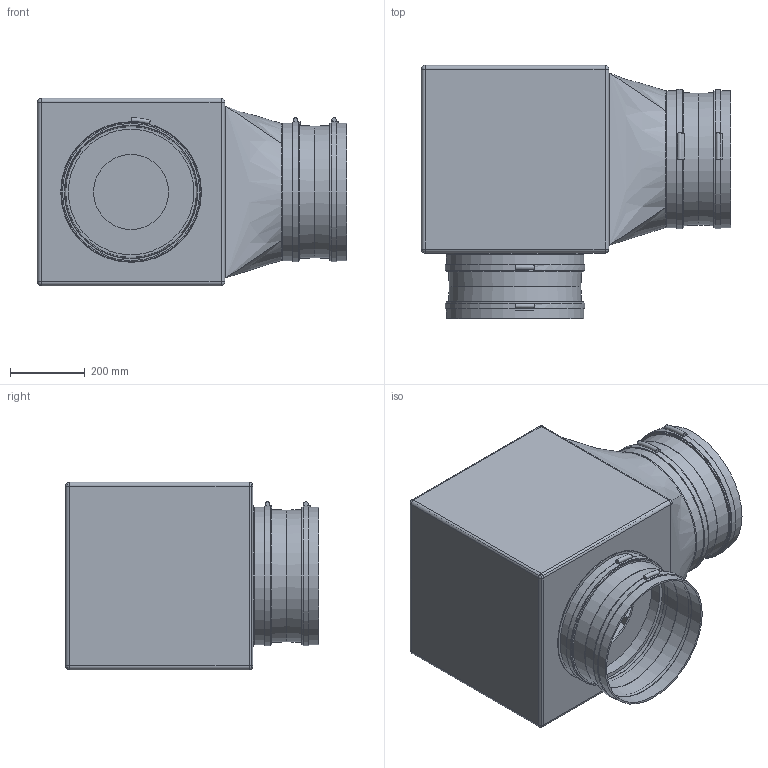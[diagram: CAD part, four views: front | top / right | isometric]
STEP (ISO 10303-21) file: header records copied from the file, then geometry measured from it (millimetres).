
FILE_DESCRIPTION(/* description */ (''),/* implementation_level */ '2;1');
FILE_NAME(/* name */ 'Z:\Output\GBW_EC_355_Radial-05809-003.stp',/* time_stamp */ '2023-02-02T08:51:27+01:00',/* author */ ('jayeshpanchal'),/* organization */ (''),/* preprocessor_version */ 'ST-DEVELOPER v18',/* originating_system */ 'Autodesk Inventor 2020',/* authorisation */ '');
FILE_SCHEMA (('AUTOMOTIVE_DESIGN { 1 0 10303 214 3 1 1 }'));
Length unit declared in the file: millimetre
Products named in the file (1): GB-2
Bounding box: 825 x 675 x 500 mm (x, y, z)
Volume: 9159689.9 mm3; surface area: 4229755.3 mm2
Topology: 9 solids, 10 shells, 139 faces, 326 edges, 222 vertices
Faces by surface type: plane 55, cylinder 48, bspline 16, sphere 8, cone 8, torus 4
Full cylindrical faces by diameter (mm): 200 x1, 335 x1, 345 x1, 355 x2, 356 x8, 365 x2, 366 x8, 372 x4, 375 x1
Entity records: 4867 total; most frequent: CARTESIAN_POINT 1479, DIRECTION 734, ORIENTED_EDGE 648, EDGE_CURVE 328, AXIS2_PLACEMENT_3D 299, VERTEX_POINT 224, CIRCLE 175, EDGE_LOOP 170
